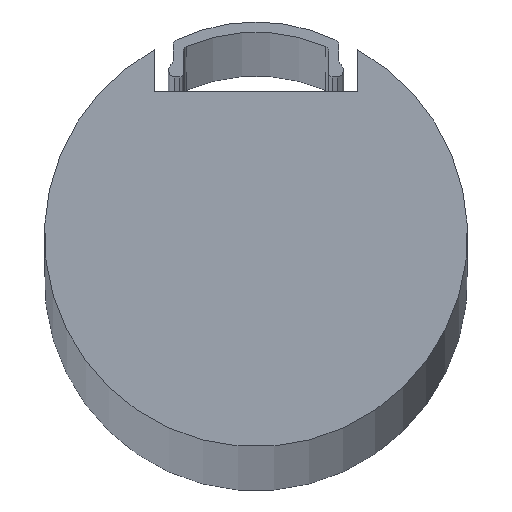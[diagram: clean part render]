
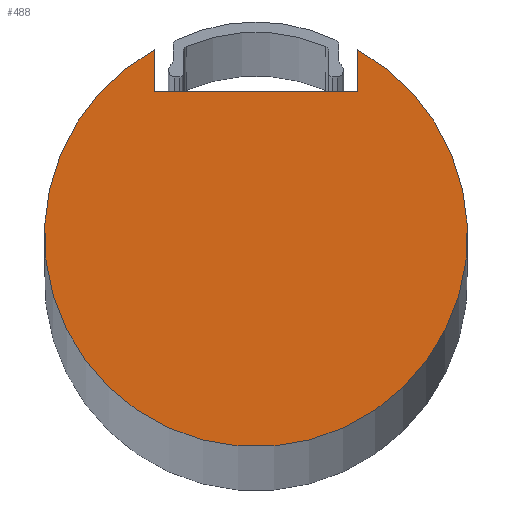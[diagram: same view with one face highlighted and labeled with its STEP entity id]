
A CAD part, top view. The second image highlights one B-rep face of the part: STEP entity #488.
In plain terms, the highlighted planar face has unit normal (0, 0, 1).
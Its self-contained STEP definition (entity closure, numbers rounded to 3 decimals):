
#53=FACE_OUTER_BOUND('',#79,.T.);
#79=EDGE_LOOP('',(#424,#425,#426,#427));
#105=CIRCLE('',#557,12.5);
#141=LINE('',#836,#181);
#143=LINE('',#840,#183);
#145=LINE('',#843,#185);
#181=VECTOR('',#697,10.);
#183=VECTOR('',#701,10.);
#185=VECTOR('',#705,10.);
#226=VERTEX_POINT('',#829);
#227=VERTEX_POINT('',#831);
#228=VERTEX_POINT('',#835);
#229=VERTEX_POINT('',#839);
#289=EDGE_CURVE('',#227,#226,#105,.T.);
#291=EDGE_CURVE('',#228,#227,#141,.T.);
#293=EDGE_CURVE('',#229,#228,#143,.T.);
#295=EDGE_CURVE('',#226,#229,#145,.T.);
#424=ORIENTED_EDGE('',*,*,#295,.T.);
#425=ORIENTED_EDGE('',*,*,#293,.T.);
#426=ORIENTED_EDGE('',*,*,#291,.T.);
#427=ORIENTED_EDGE('',*,*,#289,.T.);
#440=PLANE('',#561);
#488=ADVANCED_FACE('',(#53),#440,.T.);
#557=AXIS2_PLACEMENT_3D('',#832,#692,#693);
#561=AXIS2_PLACEMENT_3D('',#844,#706,#707);
#692=DIRECTION('center_axis',(0.,0.,1.));
#693=DIRECTION('ref_axis',(-0.48,0.877,0.));
#697=DIRECTION('',(0.,1.,0.));
#701=DIRECTION('',(-1.,0.,0.));
#705=DIRECTION('',(0.,-1.,0.));
#706=DIRECTION('center_axis',(0.,0.,1.));
#707=DIRECTION('ref_axis',(1.,0.,0.));
#829=CARTESIAN_POINT('',(6.,10.966,745.));
#831=CARTESIAN_POINT('',(-6.,10.966,745.));
#832=CARTESIAN_POINT('Origin',(0.,0.,745.));
#835=CARTESIAN_POINT('',(-6.,8.466,745.));
#836=CARTESIAN_POINT('',(-6.,8.466,745.));
#839=CARTESIAN_POINT('',(6.,8.466,745.));
#840=CARTESIAN_POINT('',(6.,8.466,745.));
#843=CARTESIAN_POINT('',(6.,10.966,745.));
#844=CARTESIAN_POINT('Origin',(0.,-0.767,745.));
